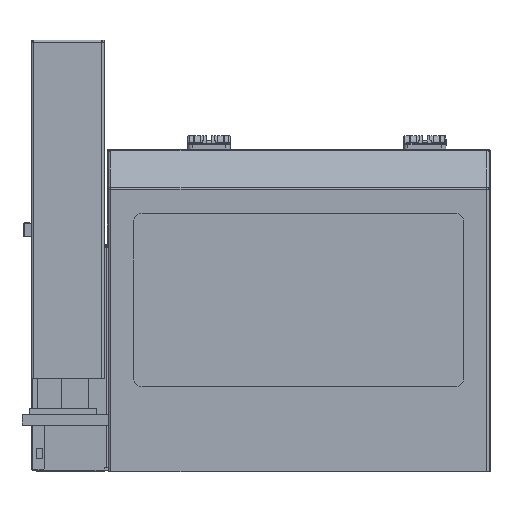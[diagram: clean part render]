
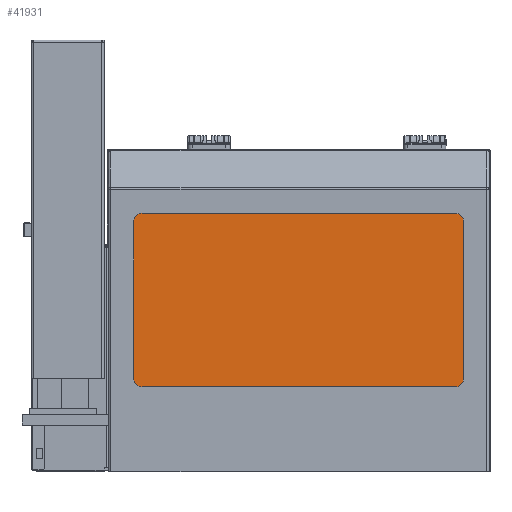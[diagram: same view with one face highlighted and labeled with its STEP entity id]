
A CAD part, top view. The second image highlights one B-rep face of the part: STEP entity #41931.
In plain terms, the highlighted planar face has unit normal (0, 0, 1).
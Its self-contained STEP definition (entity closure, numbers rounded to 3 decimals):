
#164 = EDGE_CURVE ( 'NONE', #12467, #15441, #58302, .T. ) ;
#741 = EDGE_CURVE ( 'NONE', #36594, #12467, #11770, .T. ) ;
#1076 = ORIENTED_EDGE ( 'NONE', *, *, #164, .F. ) ;
#2448 = EDGE_CURVE ( 'NONE', #36594, #40167, #22938, .T. ) ;
#2739 = CARTESIAN_POINT ( 'NONE',  ( 133.933, 317.048, 168. ) ) ;
#11770 = LINE ( 'NONE', #53807, #63416 ) ;
#11945 = ORIENTED_EDGE ( 'NONE', *, *, #48476, .F. ) ;
#12467 = VERTEX_POINT ( 'NONE', #51613 ) ;
#15441 = VERTEX_POINT ( 'NONE', #58529 ) ;
#15597 = DIRECTION ( 'NONE',  ( 0., 1., 0. ) ) ;
#16866 = LINE ( 'NONE', #2739, #51512 ) ;
#18779 = DIRECTION ( 'NONE',  ( 0., 0., -1. ) ) ;
#20314 = ORIENTED_EDGE ( 'NONE', *, *, #741, .F. ) ;
#22938 = LINE ( 'NONE', #41280, #28568 ) ;
#26852 = ORIENTED_EDGE ( 'NONE', *, *, #2448, .T. ) ;
#28148 = DIRECTION ( 'NONE',  ( -1., 0., 0. ) ) ;
#28568 = VECTOR ( 'NONE', #15597, 1000. ) ;
#30112 = VECTOR ( 'NONE', #31464, 1000. ) ;
#31464 = DIRECTION ( 'NONE',  ( 0., 1., 0. ) ) ;
#34293 = PLANE ( 'NONE',  #43310 ) ;
#34522 = CARTESIAN_POINT ( 'NONE',  ( -67.616, 87.622, 168. ) ) ;
#35356 = FACE_OUTER_BOUND ( 'NONE', #57906, .T. ) ;
#36594 = VERTEX_POINT ( 'NONE', #46240 ) ;
#40167 = VERTEX_POINT ( 'NONE', #41155 ) ;
#41155 = CARTESIAN_POINT ( 'NONE',  ( 335.482, 317.048, 168. ) ) ;
#41280 = CARTESIAN_POINT ( 'NONE',  ( 335.482, 202.335, 168. ) ) ;
#41931 = ADVANCED_FACE ( 'NONE', ( #35356 ), #34293, .F. ) ;
#43310 = AXIS2_PLACEMENT_3D ( 'NONE', #34522, #18779, #64926 ) ;
#46240 = CARTESIAN_POINT ( 'NONE',  ( 335.482, 87.622, 168. ) ) ;
#47674 = CARTESIAN_POINT ( 'NONE',  ( -67.616, 202.335, 168. ) ) ;
#48476 = EDGE_CURVE ( 'NONE', #15441, #40167, #16866, .T. ) ;
#51512 = VECTOR ( 'NONE', #59542, 1000. ) ;
#51613 = CARTESIAN_POINT ( 'NONE',  ( -67.616, 87.622, 168. ) ) ;
#53807 = CARTESIAN_POINT ( 'NONE',  ( 133.933, 87.622, 168. ) ) ;
#57906 = EDGE_LOOP ( 'NONE', ( #11945, #1076, #20314, #26852 ) ) ;
#58302 = LINE ( 'NONE', #47674, #30112 ) ;
#58529 = CARTESIAN_POINT ( 'NONE',  ( -67.616, 317.048, 168. ) ) ;
#59542 = DIRECTION ( 'NONE',  ( 1., 0., 0. ) ) ;
#63416 = VECTOR ( 'NONE', #28148, 1000. ) ;
#64926 = DIRECTION ( 'NONE',  ( 0., 1., 0. ) ) ;
